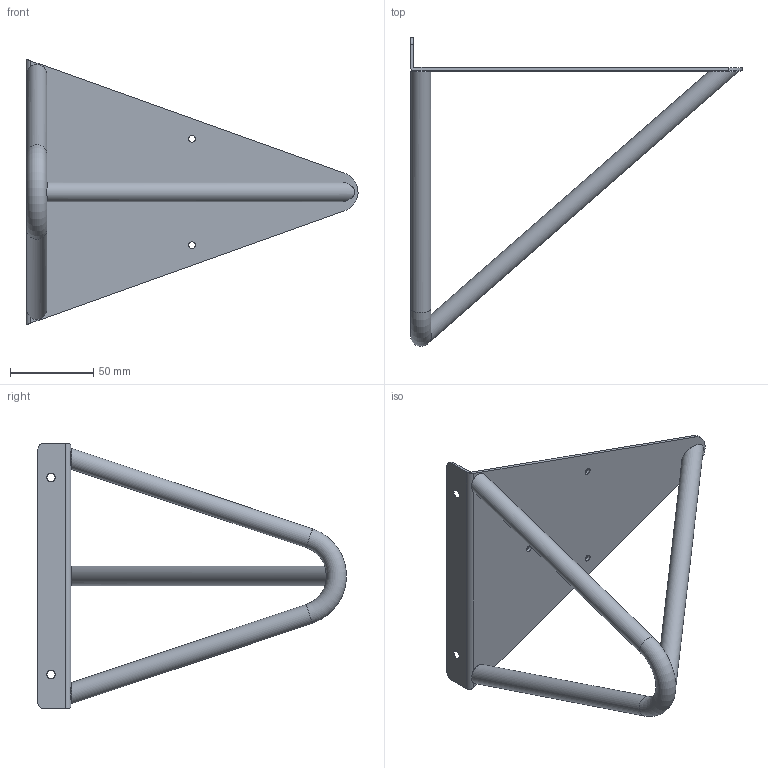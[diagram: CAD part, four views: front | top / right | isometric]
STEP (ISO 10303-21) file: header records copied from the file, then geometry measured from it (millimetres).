
FILE_DESCRIPTION(/* description */ ('Steel bracket'),/* implementation_level */ '2;1');
FILE_NAME(/* name */ 'D:\$Workingspace\Designs\Meblowka\podpórki\Bożena 2019-01-14\PP-WIRE2-XX.stp',/* time_stamp */ '2019-08-28T13:04:09+02:00',/* author */ ('tomaszw'),/* organization */ (''),/* preprocessor_version */ 'ST-DEVELOPER v17.2',/* originating_system */ 'Autodesk Inventor 2019',/* authorisation */ '');
FILE_SCHEMA (('AUTOMOTIVE_DESIGN { 1 0 10303 214 3 1 1 }'));
Length unit declared in the file: millimetre
Products named in the file (1): PP-WIRE2-XX
Bounding box: 199.96 x 185.9 x 160 mm (x, y, z)
Volume: 61281.4 mm3; surface area: 83638.9 mm2
Topology: 3 solids, 3 shells, 32 faces, 78 edges, 52 vertices
Faces by surface type: cylinder 15, plane 10, bspline 3, cone 2, torus 2
Full cylindrical faces by diameter (mm): 4 x3, 10 x3, 12 x3
Entity records: 1335 total; most frequent: CARTESIAN_POINT 504, DIRECTION 162, ORIENTED_EDGE 156, EDGE_CURVE 78, AXIS2_PLACEMENT_3D 64, VERTEX_POINT 52, EDGE_LOOP 46, LINE 34
